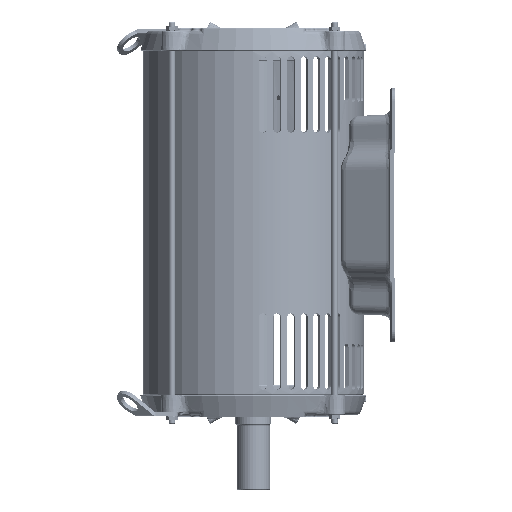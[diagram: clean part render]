
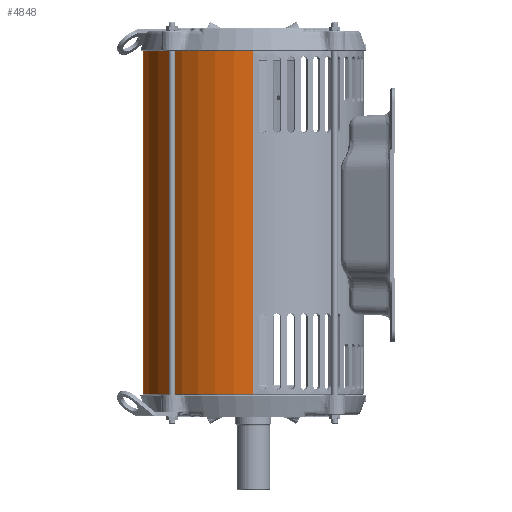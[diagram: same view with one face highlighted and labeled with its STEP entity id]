
A CAD part, left-side view. The second image highlights one B-rep face of the part: STEP entity #4848.
In plain terms, the highlighted cylindrical face has radius 137.879 mm (diameter 275.758 mm), a partial arc.
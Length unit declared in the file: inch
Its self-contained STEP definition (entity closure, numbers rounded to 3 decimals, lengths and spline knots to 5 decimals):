
#1=CARTESIAN_POINT('',(-5.28242,1.25,-6.2685));
#2=CARTESIAN_POINT('',(-5.27929,1.26323,-6.2685));
#3=CARTESIAN_POINT('',(-5.27333,1.28798,-6.26404));
#4=CARTESIAN_POINT('',(-5.26483,1.32224,-6.24436));
#5=CARTESIAN_POINT('',(-5.25855,1.34692,-6.2145));
#6=CARTESIAN_POINT('',(-5.25519,1.35995,-6.17859));
#7=CARTESIAN_POINT('',(-5.25514,1.36012,-6.14017));
#8=CARTESIAN_POINT('',(-5.2585,1.34713,-6.10391));
#9=CARTESIAN_POINT('',(-5.26467,1.32287,-6.07417));
#10=CARTESIAN_POINT('',(-5.27327,1.28824,-6.05398));
#11=CARTESIAN_POINT('',(-5.27926,1.26334,-6.0495));
#12=CARTESIAN_POINT('',(-5.28242,1.25,-6.0495));
#14=CARTESIAN_POINT('',(-5.28242,1.25,-6.0495));
#15=CARTESIAN_POINT('',(-5.28554,1.2368,-6.0495));
#16=CARTESIAN_POINT('',(-5.29129,1.21209,-6.05394));
#17=CARTESIAN_POINT('',(-5.29899,1.17789,-6.07354));
#18=CARTESIAN_POINT('',(-5.30441,1.15315,-6.10336));
#19=CARTESIAN_POINT('',(-5.30724,1.14004,-6.13935));
#20=CARTESIAN_POINT('',(-5.30727,1.13987,-6.17791));
#21=CARTESIAN_POINT('',(-5.30446,1.15294,-6.21424));
#22=CARTESIAN_POINT('',(-5.29913,1.17727,-6.24395));
#23=CARTESIAN_POINT('',(-5.29134,1.21187,-6.26405));
#24=CARTESIAN_POINT('',(-5.28556,1.23672,-6.2685));
#25=CARTESIAN_POINT('',(-5.28242,1.25,-6.2685));
#27=CARTESIAN_POINT('',(0.,0.,8.416));
#28=DIRECTION('',(0.,0.,1.));
#29=DIRECTION('',(1.,0.,0.));
#30=AXIS2_PLACEMENT_3D('',#27,#28,#29);
#32=CARTESIAN_POINT('',(0.,0.,-4.099));
#33=DIRECTION('',(0.,0.,1.));
#34=DIRECTION('',(-0.993,0.114,0.));
#35=AXIS2_PLACEMENT_3D('',#32,#33,#34);
#37=CARTESIAN_POINT('',(-5.37624,0.75,-4.229));
#38=CARTESIAN_POINT('',(-5.37624,0.75,-4.21515));
#39=CARTESIAN_POINT('',(-5.37683,0.74581,-4.18885));
#40=CARTESIAN_POINT('',(-5.37937,0.72732,-4.15184));
#41=CARTESIAN_POINT('',(-5.38325,0.69818,-4.12238));
#42=CARTESIAN_POINT('',(-5.38797,0.66087,-4.10336));
#43=CARTESIAN_POINT('',(-5.39115,0.63414,-4.099));
#44=CARTESIAN_POINT('',(-5.39278,0.62,-4.099));
#46=DIRECTION('',(0.,0.,1.));
#47=VECTOR('',#46,2.99);
#48=CARTESIAN_POINT('',(-5.37624,0.75,-7.219));
#49=LINE('',#48,#47);
#50=CARTESIAN_POINT('',(-5.39278,0.62,-7.349));
#51=CARTESIAN_POINT('',(-5.39117,0.63396,-7.349));
#52=CARTESIAN_POINT('',(-5.38802,0.66044,-7.34474));
#53=CARTESIAN_POINT('',(-5.38333,0.69757,-7.32604));
#54=CARTESIAN_POINT('',(-5.37943,0.72691,-7.29675));
#55=CARTESIAN_POINT('',(-5.37684,0.74572,-7.25955));
#56=CARTESIAN_POINT('',(-5.37624,0.75,-7.233));
#57=CARTESIAN_POINT('',(-5.37624,0.75,-7.219));
#59=CARTESIAN_POINT('',(0.,0.,-7.349));
#60=DIRECTION('',(0.,0.,1.));
#61=DIRECTION('',(-0.993,0.114,0.));
#62=AXIS2_PLACEMENT_3D('',#59,#60,#61);
#64=CARTESIAN_POINT('',(0.,0.,-8.426));
#65=DIRECTION('',(0.,0.,1.));
#66=DIRECTION('',(1.,0.,0.));
#67=AXIS2_PLACEMENT_3D('',#64,#65,#66);
#69=DIRECTION('',(0.,0.,1.));
#70=VECTOR('',#69,16.842);
#71=CARTESIAN_POINT('',(5.4283,0.,-8.426));
#72=LINE('',#71,#70);
#1735=DIRECTION('',(0.,0.,1.));
#1736=VECTOR('',#1735,1.077);
#1737=CARTESIAN_POINT('',(-5.4283,0.,-8.426));
#1738=LINE('',#1737,#1736);
#1771=DIRECTION('',(0.,0.,1.));
#1772=VECTOR('',#1771,12.515);
#1773=CARTESIAN_POINT('',(-5.4283,0.,-4.099));
#1774=LINE('',#1773,#1772);
#4729=VERTEX_POINT('',#1);
#4730=VERTEX_POINT('',#12);
#4731=VERTEX_POINT('',#37);
#4732=VERTEX_POINT('',#44);
#4733=CARTESIAN_POINT('',(-5.4283,0.,-4.099));
#4734=VERTEX_POINT('',#4733);
#4735=CARTESIAN_POINT('',(-5.39278,0.62,-7.349));
#4736=CARTESIAN_POINT('',(-5.4283,0.,-7.349));
#4737=VERTEX_POINT('',#4735);
#4738=VERTEX_POINT('',#4736);
#4739=VERTEX_POINT('',#57);
#4783=CARTESIAN_POINT('',(5.4283,0.,8.416));
#4784=CARTESIAN_POINT('',(-5.4283,0.,8.416));
#4785=VERTEX_POINT('',#4783);
#4786=VERTEX_POINT('',#4784);
#4787=CARTESIAN_POINT('',(5.4283,0.,-8.426));
#4788=CARTESIAN_POINT('',(-5.4283,0.,-8.426));
#4789=VERTEX_POINT('',#4787);
#4790=VERTEX_POINT('',#4788);
#4815=CARTESIAN_POINT('',(0.,0.,-8.69));
#4816=DIRECTION('',(0.,0.,1.));
#4817=DIRECTION('',(1.,0.,0.));
#4818=AXIS2_PLACEMENT_3D('',#4815,#4816,#4817);
#4819=CYLINDRICAL_SURFACE('',#4818,5.4283);
#4821=ORIENTED_EDGE('',*,*,#4820,.T.);
#4823=ORIENTED_EDGE('',*,*,#4822,.F.);
#4825=ORIENTED_EDGE('',*,*,#4824,.F.);
#4827=ORIENTED_EDGE('',*,*,#4826,.F.);
#4829=ORIENTED_EDGE('',*,*,#4828,.F.);
#4831=ORIENTED_EDGE('',*,*,#4830,.F.);
#4833=ORIENTED_EDGE('',*,*,#4832,.T.);
#4835=ORIENTED_EDGE('',*,*,#4834,.F.);
#4837=ORIENTED_EDGE('',*,*,#4836,.F.);
#4839=ORIENTED_EDGE('',*,*,#4838,.T.);
#4840=EDGE_LOOP('',(#4821,#4823,#4825,#4827,#4829,#4831,#4833,#4835,#4837,
#4839));
#4841=FACE_OUTER_BOUND('',#4840,.F.);
#4843=ORIENTED_EDGE('',*,*,#4842,.F.);
#4845=ORIENTED_EDGE('',*,*,#4844,.F.);
#4846=EDGE_LOOP('',(#4843,#4845));
#4847=FACE_BOUND('',#4846,.F.);
#4848=ADVANCED_FACE('',(#4841,#4847),#4819,.T.);
#13=B_SPLINE_CURVE_WITH_KNOTS('',3,(#1,#2,#3,#4,#5,#6,#7,#8,#9,#10,#11,#12),
.UNSPECIFIED.,.F.,.F.,(4,1,1,1,1,1,1,1,1,4),(0.,0.11111,
0.22222,0.33333,0.44444,0.55556,
0.66667,0.77778,0.88889,1.),.UNSPECIFIED.);
#26=B_SPLINE_CURVE_WITH_KNOTS('',3,(#14,#15,#16,#17,#18,#19,#20,#21,#22,#23,#24,
#25),.UNSPECIFIED.,.F.,.F.,(4,1,1,1,1,1,1,1,1,4),(0.,0.11111,
0.22222,0.33333,0.44444,0.55556,
0.66667,0.77778,0.88889,1.),.UNSPECIFIED.);
#31=CIRCLE('',#30,5.4283);
#36=CIRCLE('',#35,5.4283);
#45=B_SPLINE_CURVE_WITH_KNOTS('',3,(#37,#38,#39,#40,#41,#42,#43,#44),
.UNSPECIFIED.,.F.,.F.,(4,1,1,1,1,4),(0.,0.2,0.4,0.6,0.8,1.),
.UNSPECIFIED.);
#58=B_SPLINE_CURVE_WITH_KNOTS('',3,(#50,#51,#52,#53,#54,#55,#56,#57),
.UNSPECIFIED.,.F.,.F.,(4,1,1,1,1,4),(0.,0.2,0.4,0.6,0.8,1.),
.UNSPECIFIED.);
#63=CIRCLE('',#62,5.4283);
#68=CIRCLE('',#67,5.4283);
#4820=EDGE_CURVE('',#4785,#4786,#31,.T.);
#4822=EDGE_CURVE('',#4734,#4786,#1774,.T.);
#4824=EDGE_CURVE('',#4732,#4734,#36,.T.);
#4826=EDGE_CURVE('',#4731,#4732,#45,.T.);
#4828=EDGE_CURVE('',#4739,#4731,#49,.T.);
#4830=EDGE_CURVE('',#4737,#4739,#58,.T.);
#4832=EDGE_CURVE('',#4737,#4738,#63,.T.);
#4834=EDGE_CURVE('',#4790,#4738,#1738,.T.);
#4836=EDGE_CURVE('',#4789,#4790,#68,.T.);
#4838=EDGE_CURVE('',#4789,#4785,#72,.T.);
#4842=EDGE_CURVE('',#4729,#4730,#13,.T.);
#4844=EDGE_CURVE('',#4730,#4729,#26,.T.);
